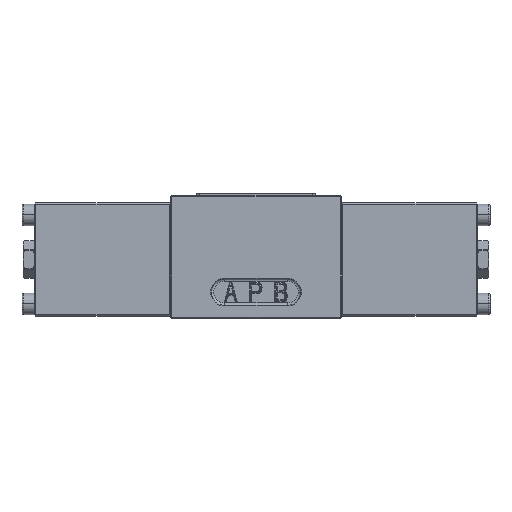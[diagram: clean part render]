
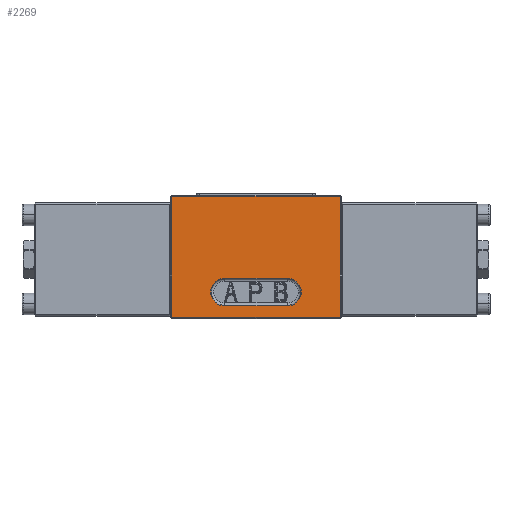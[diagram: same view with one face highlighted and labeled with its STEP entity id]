
A CAD part, top view. The second image highlights one B-rep face of the part: STEP entity #2269.
In plain terms, the highlighted planar face has unit normal (0, 0, 1).
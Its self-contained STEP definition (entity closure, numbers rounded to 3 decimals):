
#377 = AXIS2_PLACEMENT_3D ( 'NONE', #13396, #25031, #7444 ) ;
#662 = DIRECTION ( 'NONE',  ( 0., 0., 1. ) ) ;
#687 = EDGE_LOOP ( 'NONE', ( #12529, #28178, #17186, #1894, #5015 ) ) ;
#1682 = CARTESIAN_POINT ( 'NONE',  ( -12.5, -8.029, 23. ) ) ;
#1894 = ORIENTED_EDGE ( 'NONE', *, *, #8750, .T. ) ;
#1997 = CARTESIAN_POINT ( 'NONE',  ( -12.5, -18.971, 23. ) ) ;
#2019 = EDGE_CURVE ( 'NONE', #15363, #10061, #27385, .T. ) ;
#2199 = VERTEX_POINT ( 'NONE', #1682 ) ;
#2269 = ADVANCED_FACE ( 'NONE', ( #22267, #21977 ), #4118, .T. ) ;
#2496 = CARTESIAN_POINT ( 'NONE',  ( 12.5, -18.971, 23. ) ) ;
#2615 = LINE ( 'NONE', #9394, #27557 ) ;
#2947 = CARTESIAN_POINT ( 'NONE',  ( -35., -24., 23. ) ) ;
#3546 = CARTESIAN_POINT ( 'NONE',  ( 12.5, -18.971, 23. ) ) ;
#3880 = CARTESIAN_POINT ( 'NONE',  ( 12.5, -8.029, 23. ) ) ;
#4118 = PLANE ( 'NONE',  #26857 ) ;
#4130 = EDGE_CURVE ( 'NONE', #10061, #10414, #7007, .T. ) ;
#4702 = CARTESIAN_POINT ( 'NONE',  ( -33.5, -24., 23. ) ) ;
#4874 = EDGE_CURVE ( 'NONE', #15820, #8447, #9197, .T. ) ;
#5015 = ORIENTED_EDGE ( 'NONE', *, *, #9261, .T. ) ;
#6173 = LINE ( 'NONE', #3546, #27726 ) ;
#6462 = CARTESIAN_POINT ( 'NONE',  ( 12.5, -13.5, 23. ) ) ;
#6827 = CIRCLE ( 'NONE', #377, 5.471 ) ;
#7007 = LINE ( 'NONE', #4702, #18732 ) ;
#7352 = CARTESIAN_POINT ( 'NONE',  ( -33.5, -23.5, 23. ) ) ;
#7444 = DIRECTION ( 'NONE',  ( 1., 0., 0. ) ) ;
#7472 = ORIENTED_EDGE ( 'NONE', *, *, #19976, .T. ) ;
#7526 = DIRECTION ( 'NONE',  ( 1., 0., 0. ) ) ;
#7766 = CARTESIAN_POINT ( 'NONE',  ( -35., -23.5, 23. ) ) ;
#7856 = VERTEX_POINT ( 'NONE', #1997 ) ;
#7962 = DIRECTION ( 'NONE',  ( 1., 0., 0. ) ) ;
#8066 = VECTOR ( 'NONE', #7962, 1000. ) ;
#8209 = CARTESIAN_POINT ( 'NONE',  ( 17.971, -13.5, 23. ) ) ;
#8352 = DIRECTION ( 'NONE',  ( 1., 0., 0. ) ) ;
#8447 = VERTEX_POINT ( 'NONE', #8209 ) ;
#8750 = EDGE_CURVE ( 'NONE', #7856, #2199, #14343, .T. ) ;
#8848 = AXIS2_PLACEMENT_3D ( 'NONE', #16550, #20881, #7526 ) ;
#9197 = CIRCLE ( 'NONE', #25307, 5.471 ) ;
#9261 = EDGE_CURVE ( 'NONE', #2199, #15820, #10241, .T. ) ;
#9394 = CARTESIAN_POINT ( 'NONE',  ( 33.5, -24., 23. ) ) ;
#9715 = ORIENTED_EDGE ( 'NONE', *, *, #4130, .T. ) ;
#9763 = DIRECTION ( 'NONE',  ( -1., 0., 0. ) ) ;
#10061 = VERTEX_POINT ( 'NONE', #22621 ) ;
#10241 = LINE ( 'NONE', #27576, #8066 ) ;
#10414 = VERTEX_POINT ( 'NONE', #7352 ) ;
#11295 = EDGE_LOOP ( 'NONE', ( #7472, #15494, #16278, #9715 ) ) ;
#12529 = ORIENTED_EDGE ( 'NONE', *, *, #4874, .T. ) ;
#12946 = VERTEX_POINT ( 'NONE', #2496 ) ;
#13396 = CARTESIAN_POINT ( 'NONE',  ( 12.5, -13.5, 23. ) ) ;
#13750 = DIRECTION ( 'NONE',  ( 0., -1., 0. ) ) ;
#14005 = EDGE_CURVE ( 'NONE', #19917, #15363, #2615, .T. ) ;
#14343 = CIRCLE ( 'NONE', #8848, 5.471 ) ;
#14412 = EDGE_CURVE ( 'NONE', #8447, #12946, #6827, .T. ) ;
#14923 = DIRECTION ( 'NONE',  ( -1., 0., 0. ) ) ;
#15363 = VERTEX_POINT ( 'NONE', #24639 ) ;
#15494 = ORIENTED_EDGE ( 'NONE', *, *, #14005, .T. ) ;
#15820 = VERTEX_POINT ( 'NONE', #3880 ) ;
#16215 = CARTESIAN_POINT ( 'NONE',  ( -35., 24.5, 23. ) ) ;
#16278 = ORIENTED_EDGE ( 'NONE', *, *, #2019, .T. ) ;
#16550 = CARTESIAN_POINT ( 'NONE',  ( -12.5, -13.5, 23. ) ) ;
#17186 = ORIENTED_EDGE ( 'NONE', *, *, #27380, .T. ) ;
#18354 = DIRECTION ( 'NONE',  ( 1., 0., 0. ) ) ;
#18548 = LINE ( 'NONE', #7766, #21372 ) ;
#18732 = VECTOR ( 'NONE', #13750, 1000. ) ;
#19542 = DIRECTION ( 'NONE',  ( 0., 0., -1. ) ) ;
#19616 = CARTESIAN_POINT ( 'NONE',  ( 33.5, -23.5, 23. ) ) ;
#19917 = VERTEX_POINT ( 'NONE', #19616 ) ;
#19976 = EDGE_CURVE ( 'NONE', #10414, #19917, #18548, .T. ) ;
#20704 = DIRECTION ( 'NONE',  ( 1., 0., 0. ) ) ;
#20881 = DIRECTION ( 'NONE',  ( 0., 0., -1. ) ) ;
#21372 = VECTOR ( 'NONE', #20704, 1000. ) ;
#21977 = FACE_OUTER_BOUND ( 'NONE', #11295, .T. ) ;
#22267 = FACE_BOUND ( 'NONE', #687, .T. ) ;
#22621 = CARTESIAN_POINT ( 'NONE',  ( -33.5, 24.5, 23. ) ) ;
#24639 = CARTESIAN_POINT ( 'NONE',  ( 33.5, 24.5, 23. ) ) ;
#25031 = DIRECTION ( 'NONE',  ( 0., 0., -1. ) ) ;
#25307 = AXIS2_PLACEMENT_3D ( 'NONE', #6462, #19542, #8352 ) ;
#26355 = VECTOR ( 'NONE', #9763, 1000. ) ;
#26857 = AXIS2_PLACEMENT_3D ( 'NONE', #2947, #662, #18354 ) ;
#27138 = DIRECTION ( 'NONE',  ( 0., 1., 0. ) ) ;
#27380 = EDGE_CURVE ( 'NONE', #12946, #7856, #6173, .T. ) ;
#27385 = LINE ( 'NONE', #16215, #26355 ) ;
#27557 = VECTOR ( 'NONE', #27138, 1000. ) ;
#27576 = CARTESIAN_POINT ( 'NONE',  ( 12.5, -8.029, 23. ) ) ;
#27726 = VECTOR ( 'NONE', #14923, 1000. ) ;
#28178 = ORIENTED_EDGE ( 'NONE', *, *, #14412, .T. ) ;
